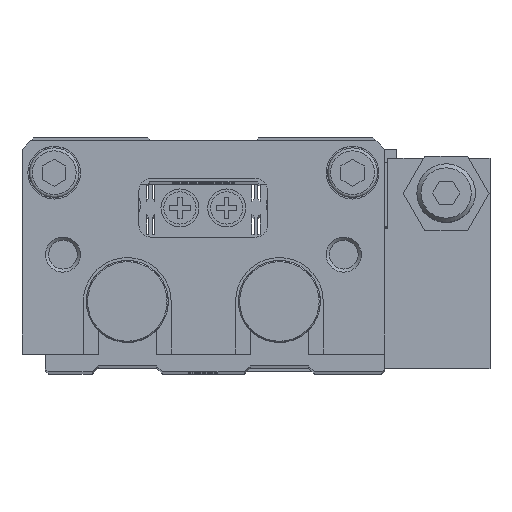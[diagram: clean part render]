
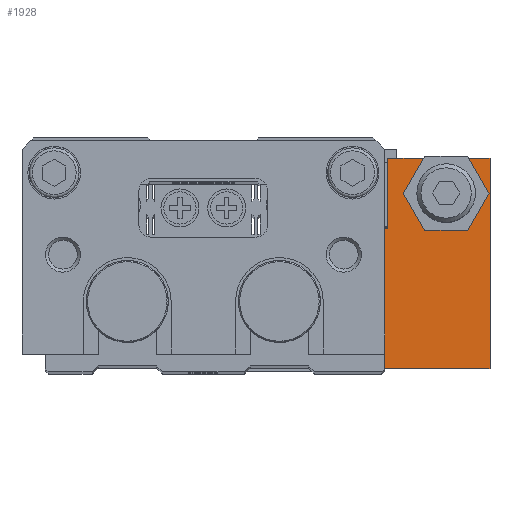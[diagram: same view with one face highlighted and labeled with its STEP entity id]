
A CAD part, top view. The second image highlights one B-rep face of the part: STEP entity #1928.
In plain terms, the highlighted planar face has unit normal (0, 0, 1) as drawn and (0, 0, -1) by its records, which use the part's own axes.
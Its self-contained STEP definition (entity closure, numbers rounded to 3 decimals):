
#1928 = ADVANCED_FACE( '', ( #4075 ), #4076, .F. );
#4075 = FACE_OUTER_BOUND( '', #6187, .T. );
#4076 = PLANE( '', #6188 );
#6187 = EDGE_LOOP( '', ( #11127, #11128, #11129, #11130, #11131, #11132, #11133, #11134, #11135, #11136, #11137, #11138 ) );
#6188 = AXIS2_PLACEMENT_3D( '', #11139, #11140, #11141 );
#11127 = ORIENTED_EDGE( '', *, *, #12555, .T. );
#11128 = ORIENTED_EDGE( '', *, *, #11938, .T. );
#11129 = ORIENTED_EDGE( '', *, *, #12997, .F. );
#11130 = ORIENTED_EDGE( '', *, *, #12592, .F. );
#11131 = ORIENTED_EDGE( '', *, *, #11157, .F. );
#11132 = ORIENTED_EDGE( '', *, *, #12463, .F. );
#11133 = ORIENTED_EDGE( '', *, *, #12352, .F. );
#11134 = ORIENTED_EDGE( '', *, *, #12133, .F. );
#11135 = ORIENTED_EDGE( '', *, *, #12998, .F. );
#11136 = ORIENTED_EDGE( '', *, *, #12976, .T. );
#11137 = ORIENTED_EDGE( '', *, *, #12957, .T. );
#11138 = ORIENTED_EDGE( '', *, *, #12171, .T. );
#11139 = CARTESIAN_POINT( '', ( 0., 0., -5.5 ) );
#11140 = DIRECTION( '', ( 0., 0., 1. ) );
#11141 = DIRECTION( '', ( 1., 0., 0. ) );
#11157 = EDGE_CURVE( '', #13036, #13037, #13038, .T. );
#11938 = EDGE_CURVE( '', #14372, #14373, #14374, .T. );
#12133 = EDGE_CURVE( '', #14670, #14671, #14672, .T. );
#12171 = EDGE_CURVE( '', #14732, #14733, #14734, .T. );
#12352 = EDGE_CURVE( '', #14671, #14993, #14994, .T. );
#12463 = EDGE_CURVE( '', #14993, #13036, #15143, .T. );
#12555 = EDGE_CURVE( '', #14733, #14372, #15270, .T. );
#12592 = EDGE_CURVE( '', #13037, #15312, #15313, .T. );
#12957 = EDGE_CURVE( '', #15754, #14732, #15755, .T. );
#12976 = EDGE_CURVE( '', #14726, #15754, #15777, .T. );
#12997 = EDGE_CURVE( '', #15312, #14373, #15798, .T. );
#12998 = EDGE_CURVE( '', #14726, #14670, #15799, .T. );
#13036 = VERTEX_POINT( '', #15841 );
#13037 = VERTEX_POINT( '', #15842 );
#13038 = LINE( '', #15843, #15844 );
#14372 = VERTEX_POINT( '', #17640 );
#14373 = VERTEX_POINT( '', #17641 );
#14374 = LINE( '', #17642, #17643 );
#14670 = VERTEX_POINT( '', #18052 );
#14671 = VERTEX_POINT( '', #18053 );
#14672 = LINE( '', #18054, #18055 );
#14726 = VERTEX_POINT( '', #18128 );
#14732 = VERTEX_POINT( '', #18137 );
#14733 = VERTEX_POINT( '', #18138 );
#14734 = LINE( '', #18139, #18140 );
#14993 = VERTEX_POINT( '', #18496 );
#14994 = LINE( '', #18497, #18498 );
#15143 = LINE( '', #18703, #18704 );
#15270 = LINE( '', #18875, #18876 );
#15312 = VERTEX_POINT( '', #18936 );
#15313 = LINE( '', #18937, #18938 );
#15754 = VERTEX_POINT( '', #19529 );
#15755 = LINE( '', #19530, #19531 );
#15777 = LINE( '', #19559, #19560 );
#15798 = LINE( '', #19582, #19583 );
#15799 = LINE( '', #19584, #19585 );
#15841 = CARTESIAN_POINT( '', ( -19., 12., -5.5 ) );
#15842 = CARTESIAN_POINT( '', ( -17.5, 12., -5.5 ) );
#15843 = CARTESIAN_POINT( '', ( -19., 12., -5.5 ) );
#15844 = VECTOR( '', #19618, 1000. );
#17640 = CARTESIAN_POINT( '', ( -14.832, 6., -5.5 ) );
#17641 = CARTESIAN_POINT( '', ( -11.368, 0., -5.5 ) );
#17642 = CARTESIAN_POINT( '', ( -14.832, 6., -5.5 ) );
#17643 = VECTOR( '', #20537, 1000. );
#18052 = CARTESIAN_POINT( '', ( 0., 0., -5.5 ) );
#18053 = CARTESIAN_POINT( '', ( 0., 36., -5.5 ) );
#18054 = CARTESIAN_POINT( '', ( 0., 0., -5.5 ) );
#18055 = VECTOR( '', #20726, 1000. );
#18128 = CARTESIAN_POINT( '', ( -3.632, 0., -5.5 ) );
#18137 = CARTESIAN_POINT( '', ( -3.834, 12.35, -5.5 ) );
#18138 = CARTESIAN_POINT( '', ( -11.166, 12.35, -5.5 ) );
#18139 = CARTESIAN_POINT( '', ( -3.834, 12.35, -5.5 ) );
#18140 = VECTOR( '', #20767, 1000. );
#18496 = CARTESIAN_POINT( '', ( -19., 36., -5.5 ) );
#18497 = CARTESIAN_POINT( '', ( 0., 36., -5.5 ) );
#18498 = VECTOR( '', #20928, 1000. );
#18703 = CARTESIAN_POINT( '', ( -19., 36., -5.5 ) );
#18704 = VECTOR( '', #21042, 1000. );
#18875 = CARTESIAN_POINT( '', ( -11.166, 12.35, -5.5 ) );
#18876 = VECTOR( '', #21132, 1000. );
#18936 = CARTESIAN_POINT( '', ( -17.5, 0., -5.5 ) );
#18937 = CARTESIAN_POINT( '', ( -17.5, 12., -5.5 ) );
#18938 = VECTOR( '', #21160, 1000. );
#19529 = CARTESIAN_POINT( '', ( -0.168, 6., -5.5 ) );
#19530 = CARTESIAN_POINT( '', ( -0.168, 6., -5.5 ) );
#19531 = VECTOR( '', #21440, 1000. );
#19559 = CARTESIAN_POINT( '', ( -3.834, -0.35, -5.5 ) );
#19560 = VECTOR( '', #21453, 1000. );
#19582 = CARTESIAN_POINT( '', ( -17.5, 0., -5.5 ) );
#19583 = VECTOR( '', #21455, 1000. );
#19584 = CARTESIAN_POINT( '', ( -17.5, 0., -5.5 ) );
#19585 = VECTOR( '', #21456, 1000. );
#19618 = DIRECTION( '', ( 1., 0., 0. ) );
#20537 = DIRECTION( '', ( 0.5, -0.866, 0. ) );
#20726 = DIRECTION( '', ( 0., 1., 0. ) );
#20767 = DIRECTION( '', ( -1., 0., 0. ) );
#20928 = DIRECTION( '', ( -1., 0., 0. ) );
#21042 = DIRECTION( '', ( 0., -1., 0. ) );
#21132 = DIRECTION( '', ( -0.5, -0.866, 0. ) );
#21160 = DIRECTION( '', ( 0., -1., 0. ) );
#21440 = DIRECTION( '', ( -0.5, 0.866, 0. ) );
#21453 = DIRECTION( '', ( 0.5, 0.866, 0. ) );
#21455 = DIRECTION( '', ( 1., 0., 0. ) );
#21456 = DIRECTION( '', ( 1., 0., 0. ) );
